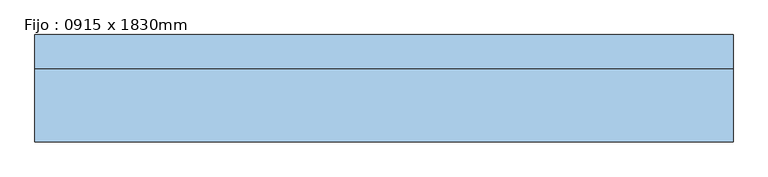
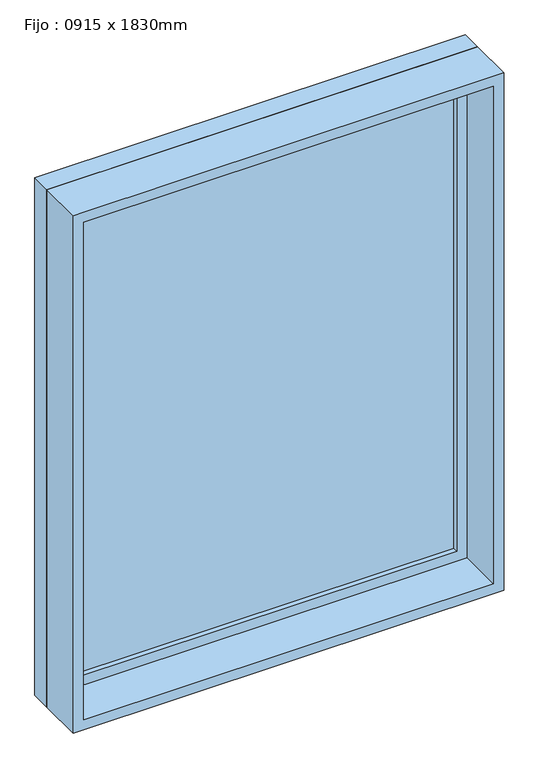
"""IFC4 building model written with IfcOpenShell, lengths in millimetres: window geometry, Fijo : 0915 x 1830mm."""

import ifcopenshell
import ifcopenshell.guid

model = None  # the IFC model being written
_history = None  # IfcOwnerHistory: only IFC2X3 demands one
_inside = {}  # id of a spatial element -> (the spatial element, [elements in it])
_under = {}  # id of a project, library or spatial element -> (it, [spatial elements below it])
_declared = {}  # id of a project -> (the project, [libraries it declares])
_typed = {}  # id of a type object -> (the type object, [elements of that type])
_made_of = {}  # id of a material, layer set ... -> (it, [elements and type objects made of it])


def new_model(schema):
    """Start an empty IFC model of exactly this schema.

    Asked for "IFC4X3", IfcOpenShell would pick the latest addendum, in which some entities
    have other attributes; the version numbers below select the first issue.
    IFC2X3 requires an IfcOwnerHistory on every rooted entity: one is made here for all.
    """
    global model, _history
    if schema == "IFC4X3":
        model = ifcopenshell.file(schema_version=(4, 3, 0, 0))
    else:
        model = ifcopenshell.file(schema=schema)
    _inside.clear()
    _under.clear()
    _declared.clear()
    _typed.clear()
    _made_of.clear()
    _history = None
    if model.schema == "IFC2X3":
        org = make("IfcOrganization", Name="unknown")
        user = make(
            "IfcPersonAndOrganization",
            ThePerson=make("IfcPerson", FamilyName="unknown"),
            TheOrganization=org,
        )
        app = make(
            "IfcApplication",
            ApplicationDeveloper=org,
            Version="unknown",
            ApplicationFullName="unknown",
            ApplicationIdentifier="unknown",
        )
        _history = make(
            "IfcOwnerHistory",
            OwningUser=user,
            OwningApplication=app,
            ChangeAction="ADDED",
            CreationDate=0,
        )
    return model


def make(cls, **values):
    """One entity of the class cls with the attributes given. An attribute that is None is left unset."""
    return model.create_entity(
        cls, **{name: value for name, value in values.items() if value is not None}
    )


def rooted(cls, **values):
    """An entity with a GlobalId (a new one), such as an element, a storey or a relation."""
    return make(cls, GlobalId=ifcopenshell.guid.new(), OwnerHistory=_history, **values)


def si_unit(unit_type, name, prefix=None):
    """IfcSIUnit, for example si_unit("LENGTHUNIT", "METRE", prefix="MILLI")."""
    return make("IfcSIUnit", UnitType=unit_type, Prefix=prefix, Name=name)


def assignment(units):
    """IfcUnitAssignment: the units of a project."""
    return None if units is None else make("IfcUnitAssignment", Units=units)


def point(xyz):
    """IfcCartesianPoint."""
    return None if xyz is None else make("IfcCartesianPoint", Coordinates=xyz)


def direction(xyz):
    """IfcDirection."""
    return None if xyz is None else make("IfcDirection", DirectionRatios=xyz)


def frame(location, z_axis=None, x_axis=None):
    """IfcAxis2Placement3D, a coordinate frame: its origin and axes. An axis left out is left unset."""
    return make(
        "IfcAxis2Placement3D",
        Location=point(location),
        Axis=direction(z_axis),
        RefDirection=direction(x_axis),
    )


def origin():
    """The frame at (0, 0, 0) with its axes left unset."""
    return frame((0.0, 0.0, 0.0))


def place(relative_to, where):
    """IfcLocalPlacement: puts the frame where relative to a parent placement (None: the world)."""
    return make(
        "IfcLocalPlacement", PlacementRelTo=relative_to, RelativePlacement=where
    )


def context(
    kind, dimensions, precision=None, world=None, true_north=None, identifier=None
):
    """IfcGeometricRepresentationContext, for example the 3D "Model" context."""
    return make(
        "IfcGeometricRepresentationContext",
        ContextIdentifier=identifier,
        ContextType=kind,
        CoordinateSpaceDimension=dimensions,
        Precision=precision,
        WorldCoordinateSystem=world,
        TrueNorth=true_north,
    )


def project(units=None, contexts=None):
    """IfcProject with its units and contexts."""
    return rooted(
        "IfcProject",
        Name="project",
        RepresentationContexts=contexts,
        UnitsInContext=assignment(units),
    )


def spatial(cls, under=None, at=None, **own):
    """A site, building, storey or space (cls), placed at a placement, below another one or the project."""
    s = rooted(cls, ObjectPlacement=at, **own)
    if under is not None:
        _under.setdefault(under.id(), (under, []))[1].append(s)
    return s


def polyline(points):
    """IfcPolyline through the points."""
    return make("IfcPolyline", Points=[point(p) for p in points])


def outline(outer, holes=None, kind="AREA"):
    """IfcArbitraryClosedProfileDef: a profile drawn as a closed curve; with holes, ...WithVoids."""
    if holes is None:
        return make("IfcArbitraryClosedProfileDef", ProfileType=kind, OuterCurve=outer)
    return make(
        "IfcArbitraryProfileDefWithVoids",
        ProfileType=kind,
        OuterCurve=outer,
        InnerCurves=holes,
    )


def extrude(swept, where, along, depth):
    """IfcExtrudedAreaSolid: the profile swept, set in the frame where, extruded along a direction by depth."""
    return make(
        "IfcExtrudedAreaSolid",
        SweptArea=swept,
        Position=where,
        ExtrudedDirection=direction(along),
        Depth=depth,
    )


def shape(context_of_items, identifier, shape_type, items):
    """IfcShapeRepresentation: the items that make up one representation, for example the "Body"."""
    return make(
        "IfcShapeRepresentation",
        ContextOfItems=context_of_items,
        RepresentationIdentifier=identifier,
        RepresentationType=shape_type,
        Items=items,
    )


def source(mapping_origin, context_of_items, identifier, shape_type, items):
    """IfcRepresentationMap: a shape defined once, which mapped items show again and again."""
    return make(
        "IfcRepresentationMap",
        MappingOrigin=mapping_origin,
        MappedRepresentation=shape(context_of_items, identifier, shape_type, items),
    )


def transform(
    local_origin,
    x_axis=None,
    y_axis=None,
    z_axis=None,
    scale=None,
    scale2=None,
    scale3=None,
    uniform=True,
):
    """IfcCartesianTransformationOperator3D, or its non-uniform kind. x_axis, y_axis, z_axis: its Axis1, 2, 3."""
    if uniform:
        return make(
            "IfcCartesianTransformationOperator3D",
            Axis1=direction(x_axis),
            Axis2=direction(y_axis),
            LocalOrigin=point(local_origin),
            Scale=scale,
            Axis3=direction(z_axis),
        )
    return make(
        "IfcCartesianTransformationOperator3DnonUniform",
        Axis1=direction(x_axis),
        Axis2=direction(y_axis),
        LocalOrigin=point(local_origin),
        Scale=scale,
        Axis3=direction(z_axis),
        Scale2=scale2,
        Scale3=scale3,
    )


def mapped(mapping_source, mapping_target):
    """IfcMappedItem: shows the shape of a source again, moved by a transform."""
    return make(
        "IfcMappedItem", MappingSource=mapping_source, MappingTarget=mapping_target
    )


def made_of(thing, what):
    """Note that an element or type object is made of a material, layer set ...; save() writes the relation."""
    if what is not None:
        _made_of.setdefault(what.id(), (what, []))[1].append(thing)
    return thing


def element(
    cls,
    number,
    at=None,
    inside=None,
    cuts=None,
    type_object=None,
    material=None,
    context=None,
    identifier="Body",
    shape_type=None,
    held_by="IfcProductDefinitionShape",
    body=None,
    shapes=None,
    **own,
):
    """One element of the class cls, such as IfcWall. Its Tag is "e" and its number.

    at: its placement. inside: the storey or other place that contains it. cuts: it is an
    opening in that element (IfcRelVoidsElement). A single representation is given by context,
    identifier, shape_type and body (its items); several are given by shapes. held_by: the class
    of the entity that holds the representations. save() writes the other relations.
    """
    e = rooted(cls, Tag="e%d" % number, ObjectPlacement=at, **own)
    if body is not None:
        shapes = [shape(context, identifier, shape_type, body)]
    if shapes is not None:
        e.Representation = make(held_by, Representations=shapes)
    if inside is not None:
        _inside.setdefault(inside.id(), (inside, []))[1].append(e)
    if cuts is not None:
        rooted(
            "IfcRelVoidsElement", RelatingBuildingElement=cuts, RelatedOpeningElement=e
        )
    if type_object is not None:
        _typed.setdefault(type_object.id(), (type_object, []))[1].append(e)
    return made_of(e, material)


def aggregate(whole, parts):
    """IfcRelAggregates: a whole, such as a stair, and the parts it consists of."""
    return rooted("IfcRelAggregates", RelatingObject=whole, RelatedObjects=parts)


def save(model, path):
    """Write the relations noted so far, then the file.

    IfcRelAggregates (storeys below a building ...), IfcRelContainedInSpatialStructure (elements
    in a storey), IfcRelDefinesByType, IfcRelAssociatesMaterial and IfcRelDeclares: one each for
    every whole, place, type object, material and project.
    """
    for whole, parts in _under.values():
        aggregate(whole, parts)
    for where, things in _inside.values():
        rooted(
            "IfcRelContainedInSpatialStructure",
            RelatedElements=things,
            RelatingStructure=where,
        )
    for kind, things in _typed.values():
        rooted("IfcRelDefinesByType", RelatedObjects=things, RelatingType=kind)
    for what, things in _made_of.values():
        rooted("IfcRelAssociatesMaterial", RelatedObjects=things, RelatingMaterial=what)
    for by, libraries in _declared.values():
        rooted("IfcRelDeclares", RelatingContext=by, RelatedDefinitions=libraries)
    model.write(path)


def fijo_0915_x_1830mm_e613a56f(model_context):
    return source(origin(), model_context, "Body", "SweptSolid", [
        extrude(outline(polyline([(-587.0, 78.0), (587.0, 78.0), (587.0, 66.0), (-587.0, 66.0), (-587.0, 78.0)])), frame((0.0, 0.0, 368.0), z_axis=(0.0, 0.0, 1.0), x_axis=(1.0, 0.0, 0.0)), (0.0, 0.0, 1.0), 1524.0),
        extrude(outline(polyline([(1936.0, -631.0), (324.0, -631.0), (324.0, 631.0), (1936.0, 631.0), (1936.0, -631.0)]), holes=[polyline([(1892.0, -587.0), (1892.0, 587.0), (368.0, 587.0), (368.0, -587.0), (1892.0, -587.0)])]), frame((0.0, 50.0, 0.0), z_axis=(0.0, 1.0, 0.0), x_axis=(0.0, 0.0, 1.0)), (0.0, 0.0, 1.0), 44.0),
        extrude(outline(polyline([(1955.0, -650.0), (305.0, -650.0), (305.0, 650.0), (1955.0, 650.0), (1955.0, -650.0)]), holes=[polyline([(1936.0, -631.0), (1936.0, 631.0), (324.0, 631.0), (324.0, -631.0), (1936.0, -631.0)])]), frame((0.0, 50.0, 0.0), z_axis=(0.0, 1.0, 0.0), x_axis=(0.0, 0.0, 1.0)), (0.0, 0.0, 1.0), 63.0),
        extrude(outline(polyline([(1955.0, -650.0), (305.0, -650.0), (305.0, 650.0), (1955.0, 650.0), (1955.0, -650.0)]), holes=[polyline([(1923.0, -618.0), (1923.0, 618.0), (337.0, 618.0), (337.0, -618.0), (1923.0, -618.0)])]), frame((0.0, -87.0, 0.0), z_axis=(0.0, 1.0, 0.0), x_axis=(0.0, 0.0, 1.0)), (0.0, 0.0, 1.0), 137.0),
    ])


if __name__ == "__main__":
    model = new_model("IFC4")
    model_context = context("Model", 3, world=origin())
    ifc_project = project(units=[si_unit("LENGTHUNIT", "METRE", prefix="MILLI")], contexts=[model_context])
    site = spatial("IfcSite", under=ifc_project)
    building = spatial("IfcBuilding", under=site)
    placement = place(None, origin())
    fijo_0915_x_1830mm_shape = fijo_0915_x_1830mm_e613a56f(model_context)
    element("IfcWindow", 1, ObjectType="Fijo : 0915 x 1830mm", at=placement, inside=building, context=model_context, shape_type="MappedRepresentation", body=[
        mapped(fijo_0915_x_1830mm_shape, transform((0.0, 0.0, 0.0), x_axis=(1.0, 0.0, 0.0), y_axis=(0.0, 1.0, 0.0), z_axis=(0.0, 0.0, 1.0))),
    ])
    save(model, "model.ifc")
